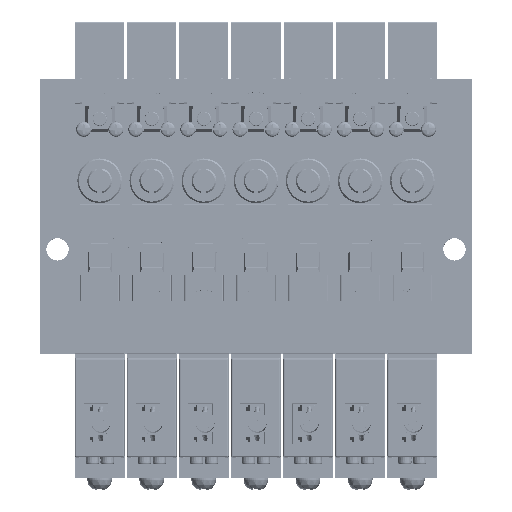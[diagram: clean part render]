
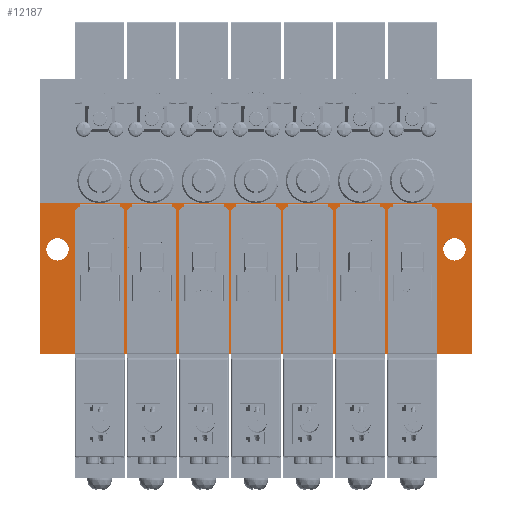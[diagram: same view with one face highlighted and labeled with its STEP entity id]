
A CAD part, top view. The second image highlights one B-rep face of the part: STEP entity #12187.
In plain terms, the highlighted planar face has unit normal (0, 0, 1).
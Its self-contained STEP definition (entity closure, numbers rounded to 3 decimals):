
#12187=ADVANCED_FACE('',(#21151,#21152,#21153),#21154,.F.);
#21151=FACE_BOUND('',#39472,.T.);
#21152=FACE_BOUND('',#39473,.T.);
#21153=FACE_OUTER_BOUND('',#39474,.T.);
#21154=PLANE('',#39475);
#39472=EDGE_LOOP('',(#60290));
#39473=EDGE_LOOP('',(#60291));
#39474=EDGE_LOOP('',(#60292,#60293,#60294,#60295));
#39475=AXIS2_PLACEMENT_3D('',#60296,#60297,#60298);
#60290=ORIENTED_EDGE('',*,*,#131138,.F.);
#60291=ORIENTED_EDGE('',*,*,#131139,.F.);
#60292=ORIENTED_EDGE('',*,*,#131140,.F.);
#60293=ORIENTED_EDGE('',*,*,#131141,.F.);
#60294=ORIENTED_EDGE('',*,*,#131142,.T.);
#60295=ORIENTED_EDGE('',*,*,#131136,.T.);
#60296=CARTESIAN_POINT('',(-87.0,30.3,14.8));
#60297=DIRECTION('',(0.0,0.0,-1.0));
#60298=DIRECTION('',(1.0,0.0,0.0));
#131136=EDGE_CURVE('',#153967,#153965,#153968,.T.);
#131138=EDGE_CURVE('',#153970,#153970,#153971,.T.);
#131139=EDGE_CURVE('',#153972,#153972,#153973,.T.);
#131140=EDGE_CURVE('',#153974,#153965,#153975,.T.);
#131141=EDGE_CURVE('',#153976,#153974,#153977,.T.);
#131142=EDGE_CURVE('',#153976,#153967,#153978,.T.);
#153965=VERTEX_POINT('',#192265);
#153967=VERTEX_POINT('',#192268);
#153968=LINE('',#192269,#192270);
#153970=VERTEX_POINT('',#192273);
#153971=CIRCLE('',#192274,2.25);
#153972=VERTEX_POINT('',#192275);
#153973=CIRCLE('',#192276,2.25);
#153974=VERTEX_POINT('',#192277);
#153975=LINE('',#192278,#192279);
#153976=VERTEX_POINT('',#192280);
#153977=LINE('',#192281,#192282);
#153978=LINE('',#192283,#192284);
#192265=CARTESIAN_POINT('',(0.0,0.,14.8));
#192268=CARTESIAN_POINT('',(-87.0,0.,14.8));
#192269=CARTESIAN_POINT('',(-87.0,0.,14.8));
#192270=VECTOR('',#253101,1.0);
#192273=CARTESIAN_POINT('',(-1.25,21.0,14.8));
#192274=AXIS2_PLACEMENT_3D('',#253103,#253104,#253105);
#192275=CARTESIAN_POINT('',(-81.25,21.0,14.8));
#192276=AXIS2_PLACEMENT_3D('',#253106,#253107,#253108);
#192277=CARTESIAN_POINT('',(0.0,30.3,14.8));
#192278=CARTESIAN_POINT('',(0.0,30.3,14.8));
#192279=VECTOR('',#253109,1.0);
#192280=CARTESIAN_POINT('',(-87.0,30.3,14.8));
#192281=CARTESIAN_POINT('',(-87.0,30.3,14.8));
#192282=VECTOR('',#253110,1.0);
#192283=CARTESIAN_POINT('',(-87.0,30.3,14.8));
#192284=VECTOR('',#253111,1.0);
#253101=DIRECTION('',(1.0,0.0,0.0));
#253103=CARTESIAN_POINT('',(-3.5,21.0,14.8));
#253104=DIRECTION('',(0.0,0.0,1.0));
#253105=DIRECTION('',(1.0,0.0,0.0));
#253106=CARTESIAN_POINT('',(-83.5,21.0,14.8));
#253107=DIRECTION('',(0.0,0.0,1.0));
#253108=DIRECTION('',(1.0,0.0,0.0));
#253109=DIRECTION('',(0.0,-1.0,0.0));
#253110=DIRECTION('',(1.0,0.0,0.0));
#253111=DIRECTION('',(0.0,-1.0,0.0));
